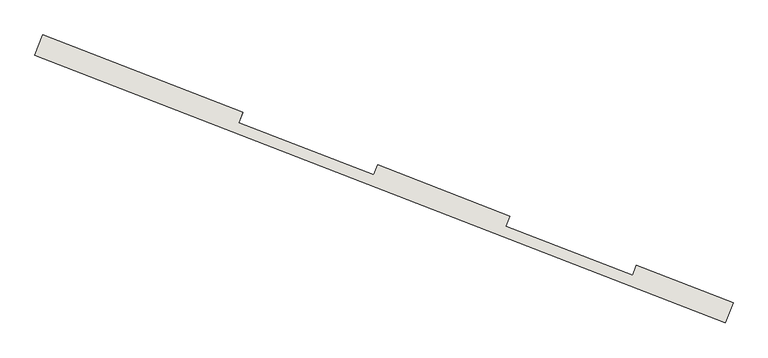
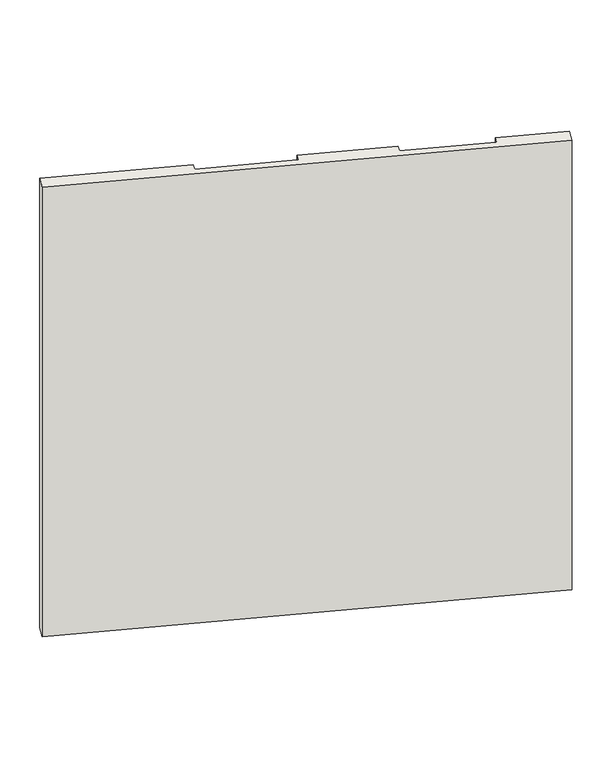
"""IFC4 building model written with IfcOpenShell, lengths in millimetres: wall geometry, kamposite9 : kamposite2."""

from ifc_helpers import new_model, si_unit, origin, place, context, project, spatial, faceted_brep, source, transform, mapped, element, save


def wall_81e31146(model_context):
    return source(origin(), model_context, "Body", "Brep", [
        faceted_brep([(-250.3748169, 15163.2898207, 23500.0), (-250.3748169, 15163.2898207, 20000.0), (2938.093022, 13926.3286894, 20000.0), (2938.093022, 13926.3286894, 23500.0), (-214.2063627, 15256.5198745, 20000.0), (-214.2063627, 15256.5198745, 23500.0), (709.2620227, 14898.2617529, 23500.0), (709.2620227, 14898.2617529, 22720.5733633), (-211.8999426, 15255.6251024, 22720.5733633), (-211.8999426, 15255.6251024, 22670.5733633), (709.2620227, 14898.2617529, 22670.5733633), (709.2620227, 14898.2617529, 20961.5733633), (-211.8999426, 15255.6251024, 20961.5733633), (-211.8999426, 15255.6251024, 20911.5733633), (709.2620227, 14898.2617529, 20911.5733633), (709.2620227, 14898.2617529, 20000.0), (2974.2614761, 14019.5587432, 23500.0), (2974.2614761, 14019.5587432, 22720.5733633), (2528.06193, 14192.661162, 22720.5733633), (2528.06193, 14192.661162, 23500.0), (2974.2614761, 14019.5587432, 20911.5733633), (2974.2614761, 14019.5587432, 20000.0), (2528.06193, 14192.661162, 20000.0), (2528.06193, 14192.661162, 20911.5733633), (2974.2614761, 14019.5587432, 22670.5733633), (2974.2614761, 14019.5587432, 20961.5733633), (2528.06193, 14192.661162, 20961.5733633), (2528.06193, 14192.661162, 22670.5733633), (1333.1327149, 14656.2320897, 23500.0), (1942.8904543, 14419.6775245, 23500.0), (1942.8904543, 14419.6775245, 22720.5733633), (1333.1327149, 14656.2320897, 22720.5733633), (1333.1327149, 14656.2320897, 22670.5733633), (1942.8904543, 14419.6775245, 22670.5733633), (1942.8904543, 14419.6775245, 20961.5733633), (1333.1327149, 14656.2320897, 20961.5733633), (1333.1327149, 14656.2320897, 20911.5733633), (1942.8904543, 14419.6775245, 20911.5733633), (1942.8904543, 14419.6775245, 20000.0), (1333.1327149, 14656.2320897, 20000.0), (691.1777956, 14851.646726, 20000.0), (1315.0484878, 14609.6170628, 20000.0), (1924.8062272, 14373.0624976, 20000.0), (2509.977703, 14146.0461351, 20000.0), (2956.1772491, 13972.9437163, 20911.5733633), (2956.1772491, 13972.9437163, 20961.5733633), (2956.1772491, 13972.9437163, 22670.5733633), (2956.1772491, 13972.9437163, 22720.5733633), (2509.977703, 14146.0461351, 23500.0), (1924.8062272, 14373.0624976, 23500.0), (1315.0484878, 14609.6170628, 23500.0), (691.1777956, 14851.646726, 23500.0), (-229.9841696, 15209.0100755, 22670.5733633), (-229.9841696, 15209.0100755, 22720.5733633), (691.1777956, 14851.646726, 22720.5733633), (1315.0484878, 14609.6170628, 22720.5733633), (1924.8062272, 14373.0624976, 22720.5733633), (2509.977703, 14146.0461351, 22720.5733633), (2509.977703, 14146.0461351, 22670.5733633), (2509.977703, 14146.0461351, 20961.5733633), (2509.977703, 14146.0461351, 20911.5733633), (1924.8062272, 14373.0624976, 20911.5733633), (1315.0484878, 14609.6170628, 20911.5733633), (691.1777956, 14851.646726, 20911.5733633), (-229.9841696, 15209.0100755, 20911.5733633), (-229.9841696, 15209.0100755, 20961.5733633), (691.1777956, 14851.646726, 20961.5733633), (691.1777956, 14851.646726, 22670.5733633), (1924.8062272, 14373.0624976, 22670.5733633), (1315.0484878, 14609.6170628, 22670.5733633), (1315.0484878, 14609.6170628, 20961.5733633), (1924.8062272, 14373.0624976, 20961.5733633)], [[[0, 1, 2, 3]], [[4, 5, 6, 7, 8, 9, 10, 11, 12, 13, 14, 15]], [[16, 17, 18, 19]], [[20, 21, 22, 23]], [[24, 25, 26, 27]], [[28, 29, 30, 31]], [[32, 33, 34, 35]], [[36, 37, 38, 39]], [[1, 0, 5, 4]], [[2, 1, 4, 15, 40, 41, 39, 38, 42, 43, 22, 21]], [[3, 2, 21, 20, 44, 45, 25, 24, 46, 47, 17, 16]], [[0, 3, 16, 19, 48, 49, 29, 28, 50, 51, 6, 5]], [[52, 53, 54, 51, 50, 55, 56, 49, 48, 57, 47, 46, 58, 59, 45, 44, 60, 43, 42, 61, 62, 41, 40, 63, 64, 65, 66, 67], [68, 69, 70, 71]], [[53, 52, 9, 8]], [[33, 32, 69, 68]], [[46, 24, 27, 58]], [[9, 52, 67, 10]], [[31, 30, 56, 55]], [[17, 47, 57, 18]], [[53, 8, 7, 54]], [[65, 64, 13, 12]], [[37, 36, 62, 61]], [[44, 20, 23, 60]], [[13, 64, 63, 14]], [[35, 34, 71, 70]], [[25, 45, 59, 26]], [[65, 12, 11, 66]], [[49, 56, 30, 29]], [[61, 42, 38, 37]], [[68, 71, 34, 33]], [[57, 48, 19, 18]], [[59, 58, 27, 26]], [[43, 60, 23, 22]], [[51, 54, 7, 6]], [[63, 40, 15, 14]], [[67, 66, 11, 10]], [[55, 50, 28, 31]], [[41, 62, 36, 39]], [[70, 69, 32, 35]]]),
    ])


if __name__ == "__main__":
    model = new_model("IFC4")
    model_context = context("Model", 3, world=origin())
    ifc_project = project(units=[si_unit("LENGTHUNIT", "METRE", prefix="MILLI")], contexts=[model_context])
    site = spatial("IfcSite", under=ifc_project)
    building = spatial("IfcBuilding", under=site)
    placement = place(None, origin())
    wall_shape = wall_81e31146(model_context)
    element("IfcWall", 1, ObjectType="kamposite9 : kamposite2", at=placement, inside=building, context=model_context, shape_type="MappedRepresentation", body=[
        mapped(wall_shape, transform((0.0, 0.0, 0.0), x_axis=(1.0, 0.0, 0.0), y_axis=(0.0, 1.0, 0.0), z_axis=(0.0, 0.0, 1.0))),
    ])
    save(model, "model.ifc")
